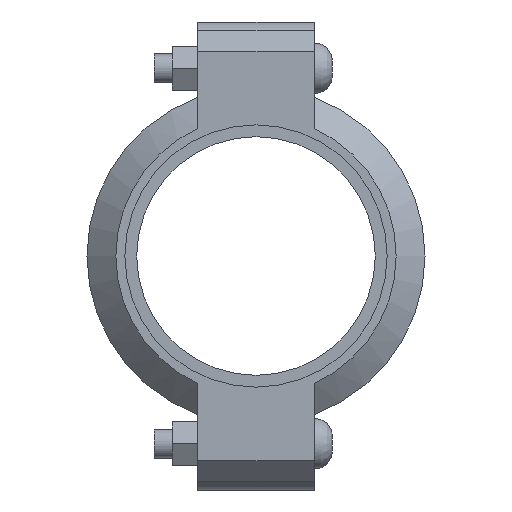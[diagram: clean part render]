
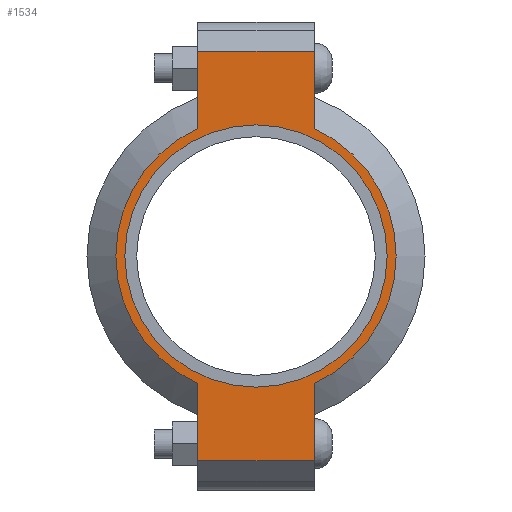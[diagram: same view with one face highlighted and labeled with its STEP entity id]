
A CAD part, left-side view. The second image highlights one B-rep face of the part: STEP entity #1534.
In plain terms, the highlighted planar face has unit normal (-1, 0, 0) as drawn and (0, 0, 1) by its records, which use the part's own axes.
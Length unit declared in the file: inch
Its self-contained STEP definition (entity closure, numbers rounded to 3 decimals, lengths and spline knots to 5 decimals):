
#158=LINE('',#2686,#251);
#166=LINE('',#2722,#259);
#173=LINE('',#2743,#266);
#182=LINE('',#2775,#275);
#183=LINE('',#2779,#276);
#184=LINE('',#2781,#277);
#251=VECTOR('',#2194,0.3937);
#259=VECTOR('',#2210,0.3937);
#266=VECTOR('',#2229,0.3937);
#275=VECTOR('',#2254,0.3937);
#276=VECTOR('',#2259,0.3937);
#277=VECTOR('',#2260,0.3937);
#333=FACE_BOUND('',#511,.T.);
#405=FACE_OUTER_BOUND('',#510,.T.);
#510=EDGE_LOOP('',(#1275,#1276,#1277,#1278,#1279,#1280,#1281,#1282));
#511=EDGE_LOOP('',(#1283));
#583=CIRCLE('',#1762,2.25);
#609=CIRCLE('',#1821,2.405);
#610=CIRCLE('',#1822,2.405);
#675=VERTEX_POINT('',#2502);
#718=VERTEX_POINT('',#2683);
#719=VERTEX_POINT('',#2685);
#730=VERTEX_POINT('',#2717);
#731=VERTEX_POINT('',#2721);
#738=VERTEX_POINT('',#2740);
#739=VERTEX_POINT('',#2742);
#749=VERTEX_POINT('',#2778);
#750=VERTEX_POINT('',#2780);
#831=EDGE_CURVE('',#675,#675,#583,.T.);
#892=EDGE_CURVE('',#719,#718,#158,.T.);
#906=EDGE_CURVE('',#731,#730,#166,.T.);
#916=EDGE_CURVE('',#739,#738,#173,.T.);
#931=EDGE_CURVE('',#731,#718,#182,.T.);
#932=EDGE_CURVE('',#730,#739,#609,.T.);
#933=EDGE_CURVE('',#749,#738,#183,.T.);
#934=EDGE_CURVE('',#749,#750,#184,.T.);
#935=EDGE_CURVE('',#750,#719,#610,.T.);
#1275=ORIENTED_EDGE('',*,*,#931,.F.);
#1276=ORIENTED_EDGE('',*,*,#906,.T.);
#1277=ORIENTED_EDGE('',*,*,#932,.T.);
#1278=ORIENTED_EDGE('',*,*,#916,.T.);
#1279=ORIENTED_EDGE('',*,*,#933,.F.);
#1280=ORIENTED_EDGE('',*,*,#934,.T.);
#1281=ORIENTED_EDGE('',*,*,#935,.T.);
#1282=ORIENTED_EDGE('',*,*,#892,.T.);
#1283=ORIENTED_EDGE('',*,*,#831,.T.);
#1376=PLANE('',#1820);
#1534=ADVANCED_FACE('',(#405,#333),#1376,.T.);
#1762=AXIS2_PLACEMENT_3D('',#2504,#2070,#2071);
#1820=AXIS2_PLACEMENT_3D('',#2776,#2255,#2256);
#1821=AXIS2_PLACEMENT_3D('',#2777,#2257,#2258);
#1822=AXIS2_PLACEMENT_3D('',#2782,#2261,#2262);
#2070=DIRECTION('center_axis',(0.,0.,-1.));
#2071=DIRECTION('ref_axis',(1.,0.,0.));
#2194=DIRECTION('',(1.,0.,0.));
#2210=DIRECTION('',(-1.,0.,0.));
#2229=DIRECTION('',(-1.,0.,0.));
#2254=DIRECTION('',(0.,-1.,0.));
#2255=DIRECTION('center_axis',(0.,0.,1.));
#2256=DIRECTION('ref_axis',(-1.,0.,0.));
#2257=DIRECTION('center_axis',(0.,0.,1.));
#2258=DIRECTION('ref_axis',(1.,0.,0.));
#2259=DIRECTION('',(0.,1.,0.));
#2260=DIRECTION('',(1.,0.,0.));
#2261=DIRECTION('center_axis',(0.,0.,1.));
#2262=DIRECTION('ref_axis',(1.,0.,0.));
#2502=CARTESIAN_POINT('',(-2.25,0.,1.065));
#2504=CARTESIAN_POINT('Origin',(0.,0.,1.065));
#2683=CARTESIAN_POINT('',(3.515,-1.,1.065));
#2685=CARTESIAN_POINT('',(2.18724,-1.,1.065));
#2686=CARTESIAN_POINT('',(4.015,-1.,1.065));
#2717=CARTESIAN_POINT('',(2.18724,1.,1.065));
#2721=CARTESIAN_POINT('',(3.515,1.,1.065));
#2722=CARTESIAN_POINT('',(-4.015,1.,1.065));
#2740=CARTESIAN_POINT('',(-3.515,1.,1.065));
#2742=CARTESIAN_POINT('',(-2.18724,1.,1.065));
#2743=CARTESIAN_POINT('',(-4.015,1.,1.065));
#2775=CARTESIAN_POINT('',(3.515,-0.5,1.065));
#2776=CARTESIAN_POINT('Origin',(0.,0.,
1.065));
#2777=CARTESIAN_POINT('Origin',(0.,0.,1.065));
#2778=CARTESIAN_POINT('',(-3.515,-1.,1.065));
#2779=CARTESIAN_POINT('',(-3.515,0.5,1.065));
#2780=CARTESIAN_POINT('',(-2.18724,-1.,1.065));
#2781=CARTESIAN_POINT('',(4.015,-1.,1.065));
#2782=CARTESIAN_POINT('Origin',(0.,0.,1.065));
